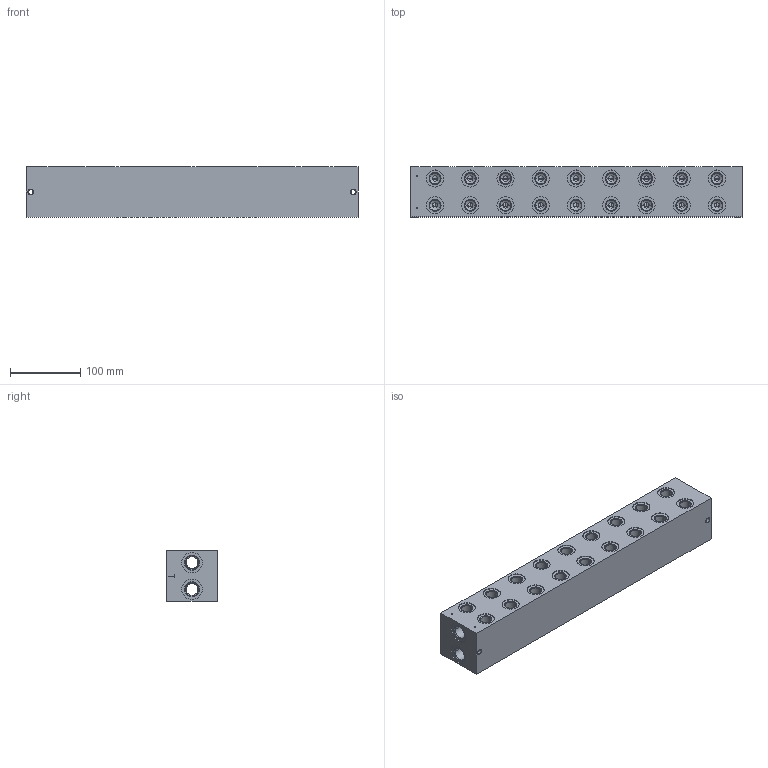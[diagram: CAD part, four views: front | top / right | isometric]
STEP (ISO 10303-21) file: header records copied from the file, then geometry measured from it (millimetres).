
FILE_DESCRIPTION((''),'2;1');
FILE_NAME('1000060226','2024-02-06T',('l.soukupova'),(''),'PRO/ENGINEER BY PARAMETRIC TECHNOLOGY CORPORATION, 2015440','PRO/ENGINEER BY PARAMETRIC TECHNOLOGY CORPORATION, 2015440','');
FILE_SCHEMA(('AUTOMOTIVE_DESIGN { 1 0 10303 214 1 1 1 1 }'));
Length unit declared in the file: millimetre
Products named in the file (1): 1000060226
Bounding box: 471 x 71 x 71 mm (x, y, z)
Volume: 2013154.7 mm3; surface area: 276393.3 mm2
Topology: 1 solids, 65 shells, 730 faces, 2518 edges, 2164 vertices
Faces by surface type: cylinder 424, cone 212, plane 94
Entity records: 40841 total; most frequent: CARTESIAN_POINT 11649, DIRECTION 4646, ORIENTED_EDGE 3224, PRESENTATION_STYLE_ASSIGNMENT 2603, STYLED_ITEM 2597, CURVE_STYLE 2532, EDGE_CURVE 1740, AXIS2_PLACEMENT_3D 1670
